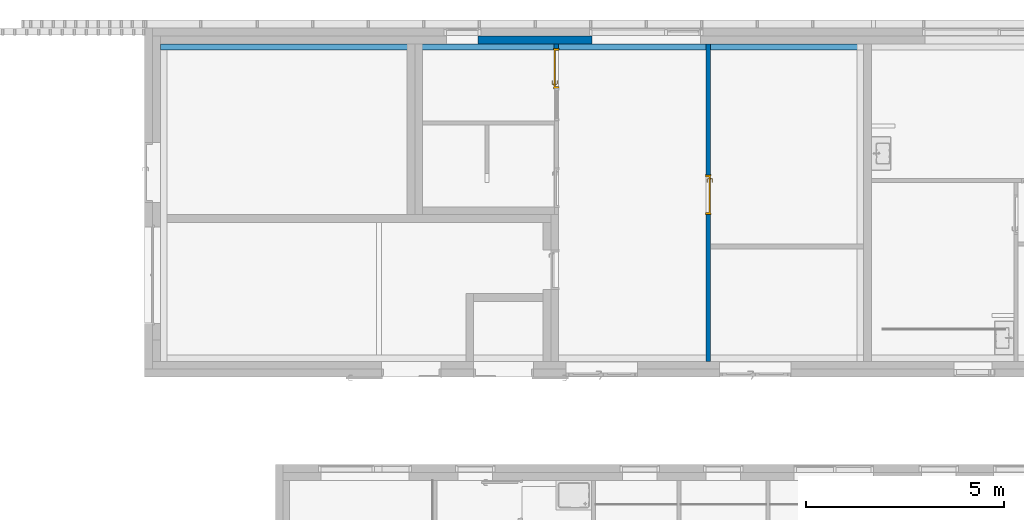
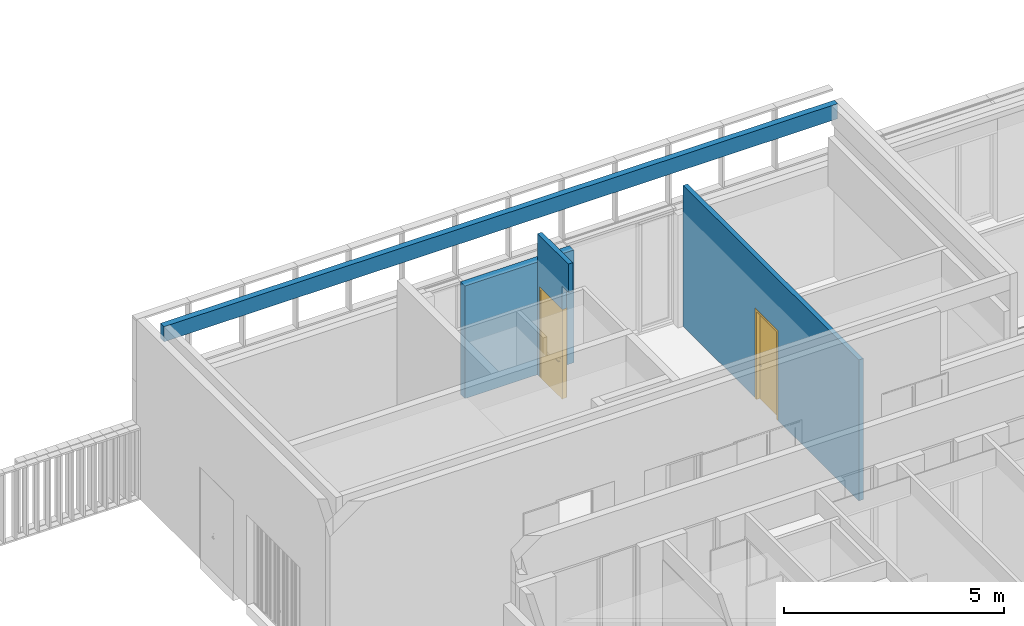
# One storey, part 115 of 240: 4 walls, 2 doors, 3 openings.
"""IFC2X3 building model written with IfcOpenShell, lengths in centimetres."""

from ifc_helpers import new_model, entity, si_unit, converted_unit, derived_unit, direction, frame, frame_2d, origin, origin_2d_with_axis, place, context, subcontext, project, spatial, polyline, rectangle, extrude, clip, halfspace, bounded_halfspace, faceted_brep, source, transform, mapped, material, material_list, layer, layer_set, layer_usage, type_object, type_shapes, element, fill, save


model = new_model("IFC2X3")

# Units and contexts
model_context = context("Model", 3, precision=0.001, world=origin(), true_north=direction((6.12303176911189e-17, 1.0)))
body_context = subcontext(model_context, "Body", "Model", "MODEL_VIEW")
ifc_project = project(units=[si_unit("LENGTHUNIT", "METRE", prefix="CENTI"), si_unit("AREAUNIT", "SQUARE_METRE"), si_unit("VOLUMEUNIT", "CUBIC_METRE"), converted_unit("PLANEANGLEUNIT", "DEGREE", entity("IfcRatioMeasure", 0.0174532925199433), si_unit("PLANEANGLEUNIT", "RADIAN"), dimensions=[0, 0, 0, 0, 0, 0, 0]), si_unit("MASSUNIT", "GRAM", prefix="KILO"), derived_unit("MASSDENSITYUNIT", [(si_unit("MASSUNIT", "GRAM", prefix="KILO"), 1), (si_unit("LENGTHUNIT", "METRE"), -3)]), si_unit("TIMEUNIT", "SECOND"), si_unit("FREQUENCYUNIT", "HERTZ"), si_unit("THERMODYNAMICTEMPERATUREUNIT", "DEGREE_CELSIUS"), derived_unit("THERMALTRANSMITTANCEUNIT", [(si_unit("MASSUNIT", "GRAM", prefix="KILO"), 1), (si_unit("THERMODYNAMICTEMPERATUREUNIT", "KELVIN"), -1), (si_unit("TIMEUNIT", "SECOND"), -3)]), derived_unit("VOLUMETRICFLOWRATEUNIT", [(si_unit("LENGTHUNIT", "METRE"), 3), (si_unit("TIMEUNIT", "SECOND"), -1)]), si_unit("ELECTRICCURRENTUNIT", "AMPERE"), si_unit("ELECTRICVOLTAGEUNIT", "VOLT"), si_unit("POWERUNIT", "WATT"), si_unit("FORCEUNIT", "NEWTON", prefix="KILO"), si_unit("ILLUMINANCEUNIT", "LUX"), si_unit("LUMINOUSFLUXUNIT", "LUMEN"), si_unit("LUMINOUSINTENSITYUNIT", "CANDELA"), derived_unit("USERDEFINED", [(si_unit("MASSUNIT", "GRAM", prefix="KILO"), -1), (si_unit("LENGTHUNIT", "METRE"), -2), (si_unit("TIMEUNIT", "SECOND"), 3), (si_unit("LUMINOUSFLUXUNIT", "LUMEN"), 1)]), derived_unit("LINEARVELOCITYUNIT", [(si_unit("LENGTHUNIT", "METRE"), 1), (si_unit("TIMEUNIT", "SECOND"), -1)]), si_unit("PRESSUREUNIT", "PASCAL"), derived_unit("USERDEFINED", [(si_unit("LENGTHUNIT", "METRE"), -2), (si_unit("MASSUNIT", "GRAM", prefix="KILO"), 1), (si_unit("TIMEUNIT", "SECOND"), -2)])], contexts=[model_context])

# Site, building, storey
site_placement = place(None, frame((-2781.94577612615, 7442.24238424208, 0.0)))
site = spatial("IfcSite", under=ifc_project, at=site_placement, Name="Default", CompositionType="ELEMENT")
building_placement = place(site_placement, origin())
building = spatial("IfcBuilding", under=site, at=building_placement, CompositionType="ELEMENT")
storey_placement = place(building_placement, origin())
storey = spatial("IfcBuildingStorey", under=building, at=storey_placement, Name="N00 - COO", CompositionType="ELEMENT", Elevation=0.0)

# Walls
ifc_material_1 = material(Name="01 - Maçonnerie")
ifc_layer_1 = layer(ifc_material_1, 20.0)
ifc_layer_set_1 = layer_set([ifc_layer_1], Name="Mur de base:04 - Structure - béton - 20cm")
ifc_layer_usage_1 = layer_usage(ifc_layer_set_1, "AXIS2", "NEGATIVE", 10.0)
wall_type_1 = type_object("IfcWallType", Name="Mur de base:04 - Structure - béton - 20cm", PredefinedType="STANDARD", material=ifc_layer_set_1)
wall_1_placement = place(storey_placement, frame((-10103.7498776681, 0.0, 0.0), z_axis=(0.0, 0.0, 1.0), x_axis=(-1.0, 0.0, 0.0)))
element("IfcWallStandardCase", 1, at=wall_1_placement, inside=storey, type_object=wall_type_1, material=ifc_layer_usage_1, Name="Mur de base:04 - Structure - béton - 20cm", ObjectType="Mur de base:04 - Structure - béton - 20cm", context=body_context, shape_type="Clipping", body=[
    clip(extrude(rectangle(XDim=286.577670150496, YDim=20.0, at=frame_2d((143.288835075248, -1.77635683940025e-15), x_axis=(-1.0, 0.0))), origin(), (0.0, 0.0, 1.0), 313.0), halfspace(frame((0.0, -10.0, 313.0), z_axis=(0.0, 0.0, 1.0), x_axis=(0.0, 1.0, 0.0)), False)),
])
ifc_material_2 = material(Name="00 - Isolant")
ifc_layer_2 = layer(ifc_material_2, 16.0)
ifc_layer_set_2 = layer_set([ifc_layer_2], Name="Mur de base:04 - retour isolation acrotère - ITE 16cm")
ifc_layer_usage_2 = layer_usage(ifc_layer_set_2, "AXIS2", "NEGATIVE", 8.0)
wall_type_2 = type_object("IfcWallType", Name="Mur de base:04 - retour isolation acrotère - ITE 16cm", PredefinedType="STANDARD", material=ifc_layer_set_2)
wall_2_placement = place(building_placement, frame((-11190.6616968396, -18.0, 448.0)))
element("IfcWallStandardCase", 2, at=wall_2_placement, inside=storey, type_object=wall_type_2, material=ifc_layer_usage_2, Name="Mur de base:04 - retour isolation acrotère - ITE 16cm", ObjectType="Mur de base:04 - retour isolation acrotère - ITE 16cm", context=body_context, shape_type="Clipping", body=[
    clip(extrude(rectangle(XDim=1771.16181917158, YDim=16.0, at=frame_2d((885.580909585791, 8.88178419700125e-16), x_axis=(-1.0, 0.0))), origin(), (0.0, 0.0, 1.0), 42.0), bounded_halfspace(frame((1771.16181917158, -8.0, 0.0)), True, frame((1771.16181917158, -8.0, 0.0)), polyline([(0.0, 0.0), (0.0, 16.0), (-1771.16181917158, 16.0), (-1771.16181917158, 0.0), (0.0, 0.0)]))),
])

# Wall, opening, door
ifc_material_3 = material(Name="01 - Enduit/Plâtre")
ifc_layer_3 = layer(ifc_material_3, 1.0)
ifc_material_4 = material(Name="Maçonnerie - Béton")
ifc_layer_4 = layer(ifc_material_4, 10.0)
ifc_layer_5 = layer(ifc_material_3, 1.0)
ifc_layer_set_3 = layer_set([ifc_layer_3, ifc_layer_4, ifc_layer_5], Name="Mur de base:06 - cloisons - agglos10 + enduit")
ifc_layer_usage_3 = layer_usage(ifc_layer_set_3, "AXIS2", "NEGATIVE", 6.0)
wall_type_3 = type_object("IfcWallType", Name="Mur de base:06 - cloisons - agglos10 + enduit", PredefinedType="STANDARD", material=ifc_layer_set_3)
wall_3_placement = place(building_placement, frame((-9810.49987766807, -10.0, 0.0), z_axis=(0.0, 0.0, 1.0), x_axis=(0.0, -1.0, 0.0)))
wall_3 = element("IfcWallStandardCase", 3, at=wall_3_placement, inside=storey, type_object=wall_type_3, material=ifc_layer_usage_3, Name="Mur de base:06 - cloisons - agglos10 + enduit", ObjectType="Mur de base:06 - cloisons - agglos10 + enduit", context=body_context, shape_type="SweptSolid", body=[
    extrude(rectangle(XDim=800.048500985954, YDim=12.0000000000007, at=frame_2d((400.024250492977, 0.0), x_axis=(-1.0, 0.0))), origin(), (0.0, 0.0, 1.0), 392.0),
])
opening_1_placement = place(wall_3_placement, frame((330.048500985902, -6.0, 0.0)))
opening_1 = element("IfcOpeningElement", 4, at=opening_1_placement, cuts=wall_3, Name="Int. Simple:PP simple (0.93m x 2.50m):1", ObjectType="Opening", context=body_context, shape_type="SweptSolid", body=[
    extrude(rectangle(XDim=248.500000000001, YDim=99.9999999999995, at=frame_2d((124.250000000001, 49.9999999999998), x_axis=(1.0, 0.0))), frame((0.0, 0.0, 0.0), z_axis=(0.0, 1.0, 0.0), x_axis=(0.0, 0.0, 1.0)), (0.0, 0.0, 1.0), 12.0),
])
ifc_material_5 = material(Name="Finition Peinture - Blanc satiné")
ifc_material_6 = material(Name="Bois - Panneau de porte")
ifc_material_7 = material(Name="Bois - Cadre de porte")
ifc_material_list_1 = material_list([ifc_material_5, ifc_material_6, ifc_material_7])
ifc_material_list_2 = material_list([ifc_material_5, ifc_material_6, ifc_material_7])
door_style = type_object("IfcDoorStyle", Name="PP simple (0.93m x 2.50m)", ConstructionType="NOTDEFINED", OperationType="SINGLE_SWING_RIGHT", ParameterTakesPrecedence=False, Sizeable=False, material=ifc_material_list_2)
shared_shape = source(origin(), body_context, "Body", "Brep", [
    faceted_brep([(99.5000000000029, -0.500000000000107, 87.0), (99.5000000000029, -0.500000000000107, 108.0), (98.535276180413, -0.500000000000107, 108.399601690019), (97.5000000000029, -0.500000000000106, 108.535898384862), (96.4647238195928, -0.500000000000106, 108.399601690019), (95.500000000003, -0.500000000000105, 108.0), (95.5000000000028, -0.500000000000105, 87.0), (96.4647238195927, -0.500000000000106, 86.6003983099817), (97.5000000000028, -0.500000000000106, 86.464101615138), (98.5352761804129, -0.500000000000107, 86.6003983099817), (99.5000000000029, 0.0, 108.0), (99.5000000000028, 0.0, 87.0), (98.5352761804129, 0.0, 86.6003983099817), (97.5000000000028, 0.0, 86.464101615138), (96.4647238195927, 0.0, 86.6003983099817), (95.5000000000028, 0.0, 87.0), (95.5000000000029, 0.0, 108.0), (96.4647238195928, 0.0, 108.399601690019), (97.5000000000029, 0.0, 108.535898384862), (98.535276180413, 0.0, 108.399601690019)], [[[0, 1, 2, 3, 4, 5, 6, 7, 8, 9]], [[10, 11, 12, 13, 14, 15, 16, 17, 18, 19]], [[9, 12, 11, 0]], [[8, 13, 12, 9]], [[7, 14, 13, 8]], [[7, 6, 15, 14]], [[15, 6, 5, 16]], [[4, 17, 16, 5]], [[3, 18, 17, 4]], [[2, 19, 18, 3]], [[2, 1, 10, 19]], [[11, 10, 1, 0]]]),
    faceted_brep([(99.5000000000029, 4.0, 87.0), (99.5000000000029, 4.0, 108.0), (98.535276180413, 4.0, 108.399601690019), (97.5000000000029, 4.0, 108.535898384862), (96.4647238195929, 4.0, 108.399601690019), (95.500000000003, 4.0, 108.0), (95.5000000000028, 4.0, 87.0), (96.4647238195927, 4.0, 86.6003983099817), (97.5000000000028, 4.0, 86.464101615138), (98.5352761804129, 4.0, 86.6003983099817), (97.5000000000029, 4.49999999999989, 108.535898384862), (98.535276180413, 4.49999999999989, 108.399601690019), (99.5000000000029, 4.49999999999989, 108.0), (99.5000000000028, 4.49999999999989, 87.0), (98.5352761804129, 4.49999999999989, 86.6003983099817), (97.5000000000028, 4.49999999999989, 86.464101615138), (96.4647238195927, 4.49999999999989, 86.6003983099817), (95.5000000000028, 4.49999999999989, 87.0), (95.500000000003, 4.49999999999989, 108.0), (96.4647238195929, 4.49999999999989, 108.399601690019)], [[[0, 1, 2, 3, 4, 5, 6, 7, 8, 9]], [[10, 11, 12, 13, 14, 15, 16, 17, 18, 19]], [[4, 19, 18, 5]], [[3, 10, 19, 4]], [[2, 11, 10, 3]], [[2, 1, 12, 11]], [[13, 12, 1, 0]], [[9, 14, 13, 0]], [[8, 15, 14, 9]], [[7, 16, 15, 8]], [[7, 6, 17, 16]], [[17, 6, 5, 18]]]),
    faceted_brep([(97.2974701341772, -0.500000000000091, 100.778044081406), (97.7025298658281, -0.500000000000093, 100.778044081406), (98.1000000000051, -0.500000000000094, 100.699999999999), (98.100000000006, -0.500000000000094, 99.2999999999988), (97.7025298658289, -0.500000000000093, 99.221955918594), (97.297470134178, -0.500000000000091, 99.2219559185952), (96.9000000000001, -0.500000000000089, 99.3000000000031), (96.9000000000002, -0.500000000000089, 100.7), (97.7025298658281, -3.10045754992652, 100.778044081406), (98.1000000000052, -3.26509507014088, 100.7), (97.2974701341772, -2.93267631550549, 100.778044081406), (95.9298602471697, -4.30028620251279, 100.778044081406), (96.0976414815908, -4.70534593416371, 100.778044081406), (96.9000000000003, -2.76803879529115, 100.7), (96.9000000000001, -2.76803879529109, 99.3000000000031), (97.297470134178, -2.93267631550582, 99.2219559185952), (97.7025298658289, -3.10045754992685, 99.221955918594), (96.0976414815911, -4.7053459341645, 99.221955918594), (95.9298602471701, -4.30028620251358, 99.2219559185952), (98.100000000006, -3.26509507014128, 99.2999999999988), (96.2622790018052, -5.10281606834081, 100.7), (95.7652227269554, -3.90281606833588, 100.7), (95.7652227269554, -3.90281606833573, 99.3000000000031), (96.2622790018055, -5.10281606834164, 99.2999999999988), (87.4981359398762, -5.10281606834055, 100.7), (87.4981359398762, -4.70534593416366, 100.778044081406), (87.4981359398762, -4.30028620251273, 100.778044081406), (87.4981359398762, -3.90281606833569, 100.699999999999), (87.4981359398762, -3.90281606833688, 99.3000000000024), (87.4981359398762, -4.30028620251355, 99.2219559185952), (87.4981359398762, -4.70534593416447, 99.221955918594), (87.4981359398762, -5.10281606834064, 99.2999999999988), (91.7139980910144, -4.5028160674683, 100.78786867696), (92.2692302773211, -5.1028160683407, 100.7), (91.6316793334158, -3.9028160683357, 100.7), (91.631679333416, -3.9028160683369, 99.3000000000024), (91.7139981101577, -4.50281607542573, 99.2121313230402), (92.2692310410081, -5.10281606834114, 99.2999999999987)], [[[0, 1, 2, 3, 4, 5, 6, 7]], [[2, 1, 8, 9]], [[1, 0, 10, 11, 12, 8]], [[0, 7, 13, 10]], [[14, 13, 7, 6]], [[5, 15, 14, 6]], [[5, 4, 16, 17, 18, 15]], [[3, 19, 16, 4]], [[9, 19, 3, 2]], [[9, 8, 12, 20]], [[10, 13, 21, 11]], [[22, 21, 13, 14]], [[14, 15, 18, 22]], [[16, 19, 23, 17]], [[20, 23, 19, 9]], [[24, 25, 26, 27, 28, 29, 30, 31]], [[32, 25, 33]], [[33, 25, 24]], [[33, 20, 12]], [[11, 34, 32]], [[34, 11, 21]], [[27, 26, 34]], [[32, 26, 25]], [[32, 34, 26]], [[32, 33, 12]], [[11, 32, 12]], [[21, 22, 35, 28, 27, 34]], [[36, 29, 35]], [[30, 36, 37]], [[18, 35, 22]], [[29, 28, 35]], [[30, 37, 31]], [[37, 17, 23]], [[36, 17, 37]], [[36, 18, 17]], [[36, 35, 18]], [[29, 36, 30]], [[23, 20, 33, 24, 31, 37]]]),
    faceted_brep([(97.2974701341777, 4.49999999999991, 99.2219559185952), (97.7025298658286, 4.49999999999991, 99.221955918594), (98.1000000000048, 4.4999999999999, 99.2999999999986), (98.1000000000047, 4.4999999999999, 100.7), (97.7025298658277, 4.49999999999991, 100.778044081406), (97.2974701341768, 4.49999999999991, 100.778044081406), (96.8999999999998, 4.49999999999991, 100.7), (96.900000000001, 4.49999999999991, 99.3000000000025), (96.8999999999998, 6.7485204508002, 100.7), (96.8999999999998, 6.74852045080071, 99.3000000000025), (97.2974701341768, 6.91315797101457, 100.778044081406), (97.7025298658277, 7.0809392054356, 100.778044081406), (96.0838906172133, 8.69957845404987, 100.778044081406), (95.9161093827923, 8.29451872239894, 100.778044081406), (98.1000000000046, 7.24557672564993, 100.7), (98.1000000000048, 7.24557672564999, 99.2999999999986), (97.7025298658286, 7.08093920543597, 99.221955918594), (97.2974701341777, 6.91315797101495, 99.2219559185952), (95.9161093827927, 8.29451872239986, 99.2219559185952), (96.0838906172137, 8.69957845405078, 99.221955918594), (95.751471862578, 7.89704858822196, 100.7), (95.7514718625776, 7.89704858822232, 99.3000000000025), (96.2485281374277, 9.09704858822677, 100.7), (96.2485281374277, 9.09704858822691, 99.2999999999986), (87.4954216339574, 8.29451872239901, 100.778044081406), (87.4954216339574, 8.69957845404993, 100.778044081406), (87.4954216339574, 9.09704858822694, 100.7), (87.4954216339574, 9.09704858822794, 99.2999999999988), (87.4954216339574, 8.6995784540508, 99.221955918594), (87.4954216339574, 8.29451872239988, 99.2219559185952), (87.4954216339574, 7.89704858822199, 99.3000000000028), (87.4954216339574, 7.89704858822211, 100.7), (91.6234467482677, 7.89704858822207, 100.7), (91.6234479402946, 7.89704858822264, 99.3000000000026), (91.7057655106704, 8.49704858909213, 100.78786867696), (92.255479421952, 9.09704858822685, 100.7), (92.2554795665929, 9.09704858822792, 99.2999999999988), (91.7057654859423, 8.49704858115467, 99.2121313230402)], [[[0, 1, 2, 3, 4, 5, 6, 7]], [[8, 9, 7, 6]], [[5, 10, 8, 6]], [[5, 4, 11, 12, 13, 10]], [[3, 14, 11, 4]], [[14, 3, 2, 15]], [[2, 1, 16, 15]], [[1, 0, 17, 18, 19, 16]], [[0, 7, 9, 17]], [[20, 21, 9, 8]], [[8, 10, 13, 20]], [[14, 22, 12, 11]], [[23, 22, 14, 15]], [[15, 16, 19, 23]], [[17, 9, 21, 18]], [[24, 25, 26, 27, 28, 29, 30, 31]], [[21, 20, 32, 31, 30, 33]], [[34, 24, 32]], [[25, 34, 35]], [[13, 32, 20]], [[24, 31, 32]], [[25, 35, 26]], [[35, 12, 22]], [[34, 12, 35]], [[34, 13, 12]], [[34, 32, 13]], [[24, 34, 25]], [[22, 23, 36, 27, 26, 35]], [[37, 28, 36]], [[36, 28, 27]], [[36, 23, 19]], [[18, 33, 37]], [[33, 18, 21]], [[30, 29, 33]], [[37, 29, 28]], [[37, 33, 29]], [[37, 36, 19]], [[18, 37, 19]]]),
    faceted_brep([(103.500000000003, 4.0, 245.0), (103.500000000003, 4.0, 0.0), (10.5000000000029, 4.0, 0.0), (10.5000000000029, 4.0, 245.0), (103.500000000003, 0.0, 245.0), (10.5000000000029, 0.0, 245.0), (10.5000000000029, 0.0, 0.0), (103.500000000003, 0.0, 0.0)], [[[0, 1, 2, 3]], [[4, 5, 6, 7]], [[3, 5, 4, 0]], [[2, 6, 5, 3]], [[1, 7, 6, 2]], [[0, 4, 7, 1]]]),
    faceted_brep([(107.0, 12.0, 0.0), (107.0, 0.0, 0.0), (108.500000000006, 0.0, 0.0), (108.500000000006, -0.500000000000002, 0.0), (103.500000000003, -0.500000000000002, 0.0), (103.500000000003, 4.0, 0.0), (102.0, 4.0, 0.0), (102.0, 12.5000000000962, 0.0), (108.500000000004, 12.5000000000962, 0.0), (108.500000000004, 12.0, 0.0), (107.0, 12.0, 248.500000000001), (107.0, 0.0, 248.500000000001), (108.500000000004, 12.0, 250.0), (5.50000000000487, 12.0, 250.0), (5.50000000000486, 12.0, 0.0), (7.0, 12.0, 0.0), (7.0, 12.0, 248.500000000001), (102.0, 4.0, 243.5), (102.0, 12.5000000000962, 243.5), (103.500000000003, 4.0, 245.0), (10.5000000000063, 4.0, 245.0), (10.5000000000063, 4.0, 0.0), (12.0, 4.0, 0.0), (12.0, 4.0, 243.5), (7.0, 0.0, 0.0), (7.0, 0.0, 248.500000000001), (5.50000000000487, 12.5000000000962, 0.0), (12.0, 12.5000000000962, 0.0), (10.5000000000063, -0.500000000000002, 0.0), (5.5000000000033, -0.500000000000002, 0.0), (5.5000000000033, 0.0, 0.0), (12.0, 12.5000000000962, 243.5), (103.500000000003, -0.500000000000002, 245.0), (108.500000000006, -0.500000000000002, 250.0), (5.5000000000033, -0.500000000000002, 250.0), (10.5000000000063, -0.500000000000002, 245.0), (108.500000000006, 0.0, 250.0), (5.50000000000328, 0.0, 250.0), (108.500000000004, 12.5000000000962, 250.0), (5.50000000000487, 12.5000000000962, 250.0)], [[[0, 1, 2, 3, 4, 5, 6, 7, 8, 9]], [[0, 10, 11, 1]], [[9, 12, 13, 14, 15, 16, 10, 0]], [[7, 6, 17, 18]], [[5, 19, 20, 21, 22, 23, 17, 6]], [[16, 15, 24, 25]], [[15, 14, 26, 27, 22, 21, 28, 29, 30, 24]], [[23, 22, 27, 31]], [[10, 16, 25, 11]], [[17, 23, 31, 18]], [[5, 4, 32, 19]], [[3, 33, 34, 29, 28, 35, 32, 4]], [[2, 36, 33, 3]], [[1, 11, 25, 24, 30, 37, 36, 2]], [[8, 38, 12, 9]], [[7, 18, 31, 27, 26, 39, 38, 8]], [[35, 28, 21, 20]], [[37, 30, 29, 34]], [[39, 26, 14, 13]], [[32, 35, 20, 19]], [[36, 37, 34, 33]], [[38, 39, 13, 12]]]),
])
type_shapes(door_style, [shared_shape])
door_1_placement = place(opening_1_placement, frame((107.0, 12.0, 0.0), z_axis=(0.0, 0.0, 1.0), x_axis=(-1.0, 0.0, 0.0)))
door_1 = element("IfcDoor", 5, at=door_1_placement, inside=storey, type_object=door_style, material=ifc_material_list_1, Name="Int. Simple:PP simple (0.93m x 2.50m)", ObjectType="Int. Simple:PP simple (0.93m x 2.50m)", OverallHeight=248.500000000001, OverallWidth=99.9999999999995, context=body_context, shape_type="MappedRepresentation", body=[
    mapped(shared_shape, transform((0.0, 0.0, 0.0), scale=1.0)),
])
fill(opening_1, door_1)

# Wall, openings, door
ifc_layer_usage_4 = layer_usage(ifc_layer_set_3, "AXIS2", "NEGATIVE", 6.0)
wall_4_placement = place(building_placement, frame((-10193.4998776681, -10.0, 0.0), z_axis=(0.0, 0.0, 1.0), x_axis=(0.0, -1.0, 0.0)))
wall_4 = element("IfcWallStandardCase", 6, at=wall_4_placement, inside=storey, type_object=wall_type_3, material=ifc_layer_usage_4, Name="Mur de base:06 - cloisons - agglos10 + enduit", ObjectType="Mur de base:06 - cloisons - agglos10 + enduit", context=body_context, shape_type="SweptSolid", body=[
    extrude(rectangle(XDim=140.000000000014, YDim=12.0000000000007, at=frame_2d((70.0000000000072, 1.51434420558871e-13), x_axis=(-1.0, 0.0))), origin(), (0.0, 0.0, 1.0), 392.0),
])
opening_2_placement = place(wall_4_placement, origin())
element("IfcOpeningElement", 7, at=opening_2_placement, cuts=wall_4, Name="Mur de base:06 - cloisons - agglos10 + enduit", ObjectType="Opening", context=body_context, shape_type="SweptSolid", body=[
    extrude(rectangle(XDim=313.0, YDim=81.9999999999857, at=origin_2d_with_axis()), frame((153.0, -21.24, 156.5), z_axis=(0.0, 1.0, 0.0), x_axis=(0.0, 0.0, 1.0)), (0.0, 0.0, 1.0), 42.4800000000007),
])
opening_3_placement = place(wall_4_placement, frame((112.0, 6.0, 0.0)))
opening_3 = element("IfcOpeningElement", 8, at=opening_3_placement, cuts=wall_4, Name="Int. Simple:PP simple (0.93m x 2.50m):1", ObjectType="Opening", context=body_context, shape_type="SweptSolid", body=[
    extrude(rectangle(XDim=248.500000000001, YDim=99.9999999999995, at=frame_2d((124.250000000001, 49.9999999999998), x_axis=(1.0, 0.0))), frame((0.0, 0.0, 0.0), z_axis=(0.0, -1.0, 0.0), x_axis=(0.0, 0.0, 1.0)), (0.0, 0.0, 1.0), 12.0),
])
ifc_material_list_3 = material_list([ifc_material_5, ifc_material_6, ifc_material_7])
door_2_placement = place(opening_3_placement, frame((-107.0, -12.0, 0.0)))
door_2 = element("IfcDoor", 9, at=door_2_placement, inside=storey, type_object=door_style, material=ifc_material_list_3, Name="Int. Simple:PP simple (0.93m x 2.50m)", ObjectType="Int. Simple:PP simple (0.93m x 2.50m)", OverallHeight=248.500000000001, OverallWidth=99.9999999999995, context=body_context, shape_type="MappedRepresentation", body=[
    mapped(shared_shape, transform((0.0, 0.0, 0.0), scale=1.0)),
])
fill(opening_3, door_2)

save(model, "model.ifc")
